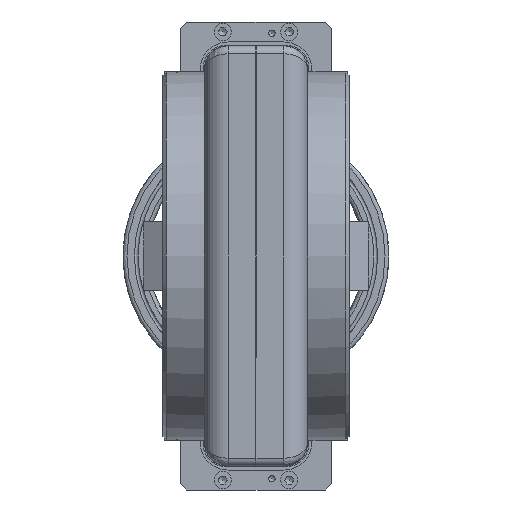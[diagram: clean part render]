
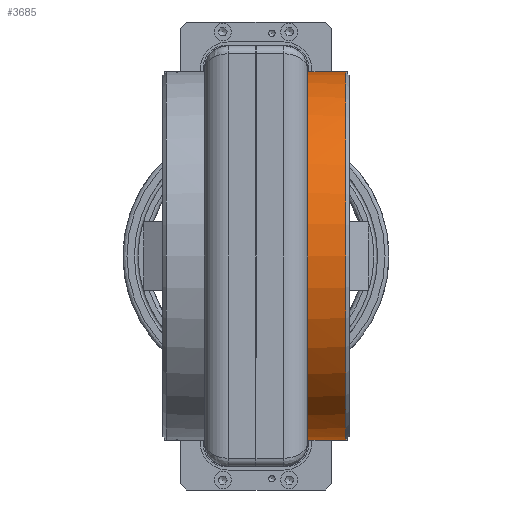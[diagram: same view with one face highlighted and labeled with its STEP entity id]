
A CAD part, left-side view. The second image highlights one B-rep face of the part: STEP entity #3685.
In plain terms, the highlighted cylindrical face has radius 138.5 mm (diameter 277 mm), a full revolution.
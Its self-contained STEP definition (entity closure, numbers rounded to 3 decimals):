
#3326=CYLINDRICAL_SURFACE('',#10656,138.5);
#3685=ADVANCED_FACE('',(#4554,#4555),#3326,.T.);
#4554=FACE_BOUND('',#5543,.T.);
#4555=FACE_BOUND('',#5544,.T.);
#5543=EDGE_LOOP('',(#6812));
#5544=EDGE_LOOP('',(#6813,#6814,#6815,#6816));
#6812=ORIENTED_EDGE('',*,*,#9153,.T.);
#6813=ORIENTED_EDGE('',*,*,#9154,.F.);
#6814=ORIENTED_EDGE('',*,*,#9151,.F.);
#6815=ORIENTED_EDGE('',*,*,#9155,.F.);
#6816=ORIENTED_EDGE('',*,*,#9141,.F.);
#8318=VERTEX_POINT('',#16034);
#8319=VERTEX_POINT('',#16042);
#8325=VERTEX_POINT('',#16099);
#8326=VERTEX_POINT('',#16101);
#8327=VERTEX_POINT('',#16111);
#9141=EDGE_CURVE('',#8319,#8318,#9937,.T.);
#9151=EDGE_CURVE('',#8325,#8326,#9942,.T.);
#9153=EDGE_CURVE('',#8327,#8327,#9943,.T.);
#9154=EDGE_CURVE('',#8326,#8319,#9944,.T.);
#9155=EDGE_CURVE('',#8318,#8325,#9945,.T.);
#9937=CIRCLE('',#10641,138.5);
#9942=CIRCLE('',#10651,138.5);
#9943=CIRCLE('',#10653,138.5);
#9944=CIRCLE('',#10654,138.5);
#9945=CIRCLE('',#10655,138.5);
#10641=AXIS2_PLACEMENT_3D('',#16043,#12224,#12225);
#10651=AXIS2_PLACEMENT_3D('',#16100,#12246,#12247);
#10653=AXIS2_PLACEMENT_3D('',#16110,#12250,#12251);
#10654=AXIS2_PLACEMENT_3D('',#16112,#12252,#12253);
#10655=AXIS2_PLACEMENT_3D('',#16113,#12254,#12255);
#10656=AXIS2_PLACEMENT_3D('',#16114,#12256,#12257);
#12224=DIRECTION('',(-1.,0.,0.));
#12225=DIRECTION('',(0.,0.,1.));
#12246=DIRECTION('',(-1.,0.,0.));
#12247=DIRECTION('',(0.,0.,1.));
#12250=DIRECTION('',(-1.,0.,0.));
#12251=DIRECTION('',(0.,0.,1.));
#12252=DIRECTION('',(-1.,0.,0.));
#12253=DIRECTION('',(0.,0.,1.));
#12254=DIRECTION('',(-1.,0.,0.));
#12255=DIRECTION('',(0.,0.,1.));
#12256=DIRECTION('',(-1.,0.,0.));
#12257=DIRECTION('',(0.,0.,1.));
#16034=CARTESIAN_POINT('',(2.5,-138.468,-3.));
#16042=CARTESIAN_POINT('',(2.5,138.468,-3.));
#16043=CARTESIAN_POINT('',(2.5,0.,0.));
#16099=CARTESIAN_POINT('',(2.5,-138.468,3.));
#16100=CARTESIAN_POINT('',(2.5,0.,0.));
#16101=CARTESIAN_POINT('',(2.5,138.468,3.));
#16110=CARTESIAN_POINT('',(31.,0.,0.));
#16111=CARTESIAN_POINT('',(31.,0.,138.5));
#16112=CARTESIAN_POINT('',(2.5,0.,0.));
#16113=CARTESIAN_POINT('',(2.5,0.,0.));
#16114=CARTESIAN_POINT('',(0.,0.,0.));
